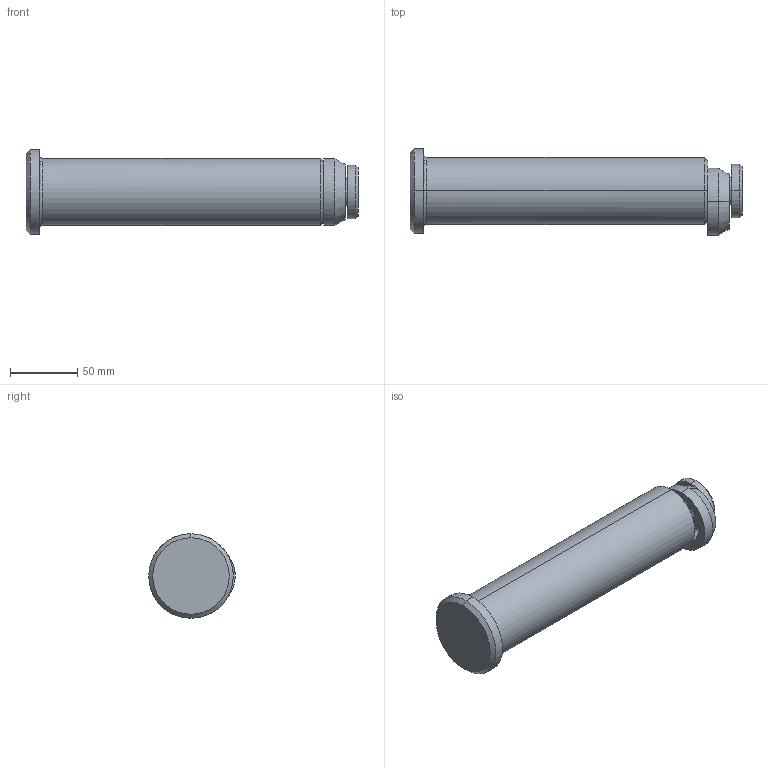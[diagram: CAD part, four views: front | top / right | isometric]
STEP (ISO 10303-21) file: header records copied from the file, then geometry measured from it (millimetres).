
FILE_DESCRIPTION(('CATIA V5 STEP Exchange'),'2;1');
FILE_NAME('C:\Users\Raffaele\Desktop\3D X SITO CF\PERNI -STAFFE SOLLEVAMENTO\395C\GSB_OILLESS_C10305050212\STEP-2.03\395C-050-212.stp','2019-07-03T07:16:33+00:00',('none'),('none'),'CATIA Version 5 Release 20 GA (IN-10)','CATIA V5 STEP AP203','none');
FILE_SCHEMA(('CONFIG_CONTROL_DESIGN'));
Length unit declared in the file: millimetre
Products named in the file (1): 395C-050-212
Assembly tree (3 placements, depth 2):
  395C-050-212
    #58
    #745
    #1116
Bounding box: 247.6 x 64.5 x 63 mm (x, y, z)
Volume: 475080.9 mm3; surface area: 51321.6 mm2
Topology: 3 solids, 3 shells, 34 faces, 106 edges, 80 vertices
Faces by surface type: cylinder 14, cone 10, plane 8, torus 2
Entity records: 1530 total; most frequent: CARTESIAN_POINT 496, ORIENTED_EDGE 212, DIRECTION 162, EDGE_CURVE 106, AXIS2_PLACEMENT_3D 98, VERTEX_POINT 80, CIRCLE 58, EDGE_LOOP 40
